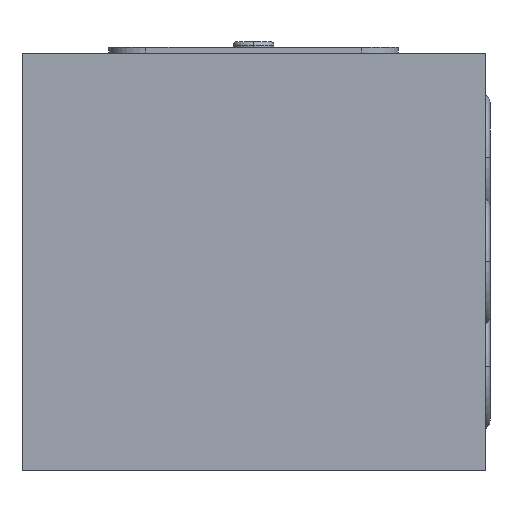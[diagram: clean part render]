
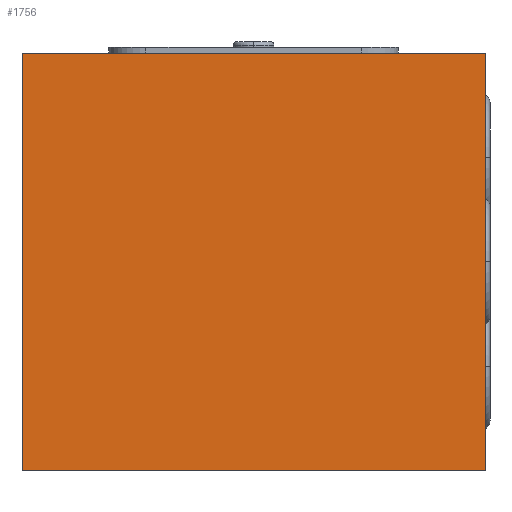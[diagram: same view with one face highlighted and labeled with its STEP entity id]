
A CAD part, left-side view. The second image highlights one B-rep face of the part: STEP entity #1756.
In plain terms, the highlighted planar face has unit normal (-1, 0, 0).
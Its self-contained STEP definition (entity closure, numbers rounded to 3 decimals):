
#54=DIRECTION('',(0.,0.,-1.));
#55=VECTOR('',#54,36.);
#56=CARTESIAN_POINT('',(0.,0.,0.));
#57=LINE('',#56,#55);
#58=DIRECTION('',(0.,1.,0.));
#59=VECTOR('',#58,40.);
#60=CARTESIAN_POINT('',(0.,0.,-36.));
#61=LINE('',#60,#59);
#62=DIRECTION('',(0.,0.,1.));
#63=VECTOR('',#62,36.);
#64=CARTESIAN_POINT('',(0.,40.,-36.));
#65=LINE('',#64,#63);
#66=DIRECTION('',(0.,-1.,0.));
#67=VECTOR('',#66,40.);
#68=CARTESIAN_POINT('',(0.,40.,0.));
#69=LINE('',#68,#67);
#1511=CARTESIAN_POINT('',(0.,0.,0.));
#1512=CARTESIAN_POINT('',(0.,0.,-36.));
#1513=VERTEX_POINT('',#1511);
#1514=VERTEX_POINT('',#1512);
#1515=CARTESIAN_POINT('',(0.,40.,-36.));
#1516=VERTEX_POINT('',#1515);
#1517=CARTESIAN_POINT('',(0.,40.,0.));
#1518=VERTEX_POINT('',#1517);
#1741=CARTESIAN_POINT('',(0.,0.,0.));
#1742=DIRECTION('',(1.,0.,0.));
#1743=DIRECTION('',(0.,0.,-1.));
#1744=AXIS2_PLACEMENT_3D('',#1741,#1742,#1743);
#1745=PLANE('',#1744);
#1747=ORIENTED_EDGE('',*,*,#1746,.T.);
#1749=ORIENTED_EDGE('',*,*,#1748,.T.);
#1751=ORIENTED_EDGE('',*,*,#1750,.T.);
#1753=ORIENTED_EDGE('',*,*,#1752,.T.);
#1754=EDGE_LOOP('',(#1747,#1749,#1751,#1753));
#1755=FACE_OUTER_BOUND('',#1754,.F.);
#1746=EDGE_CURVE('',#1513,#1514,#57,.T.);
#1748=EDGE_CURVE('',#1514,#1516,#61,.T.);
#1750=EDGE_CURVE('',#1516,#1518,#65,.T.);
#1752=EDGE_CURVE('',#1518,#1513,#69,.T.);
#1756=ADVANCED_FACE('',(#1755),#1745,.F.);
